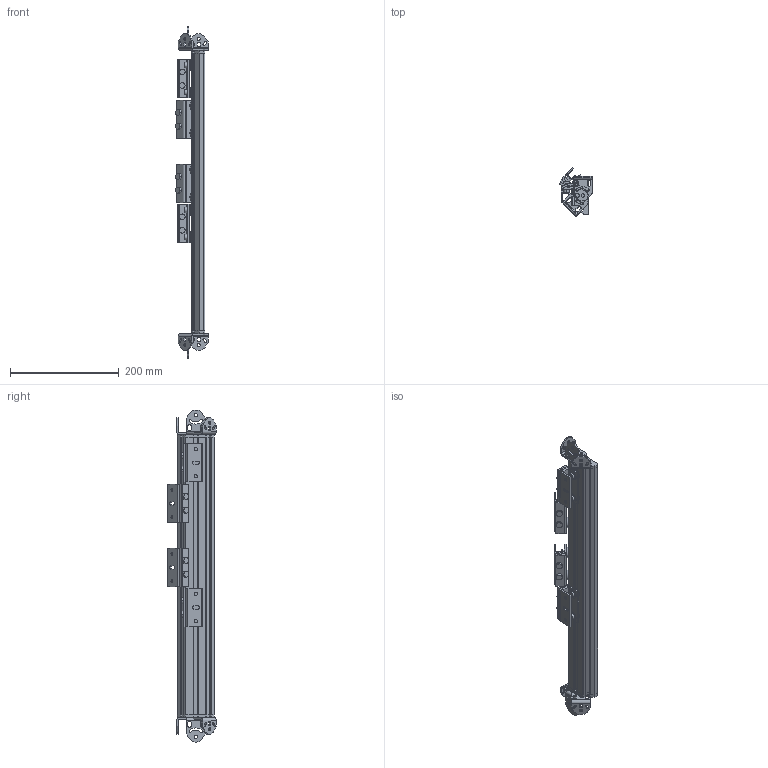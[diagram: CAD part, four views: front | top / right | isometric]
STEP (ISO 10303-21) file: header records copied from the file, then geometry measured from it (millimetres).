
FILE_DESCRIPTION((''),'2;1');
FILE_NAME('UM60-450.stp','2007-11-13T15:08:34',(''),(''),'Mechanical Desktop 2008','Mechanical Desktop 2008',', , ');
FILE_SCHEMA(('CONFIG_CONTROL_DESIGN'));
Length unit declared in the file: millimetre
Products named in the file (11): UM60-XXX; SCHWENKWINKEL; 347901-3D-; 347902-3D-; 347903-3D-; M6-GEWINDEBUCHSE; MESSING-BUCHSE; UM60-WINKEL; PROFIL-N; DECKEL_N; ~DECKEL_N
Assembly tree (20 placements, depth 3):
  UM60-XXX
    SCHWENKWINKEL  x4
      347901-3D-
      347902-3D-
      347903-3D-
      M6-GEWINDEBUCHSE
      MESSING-BUCHSE
    UM60-WINKEL  x6
    PROFIL-N
    DECKEL_N
    ~DECKEL_N
Bounding box: 59.88 x 89.1 x 610 mm (x, y, z)
Volume: 730177.4 mm3; surface area: 251432 mm2
Topology: 37 solids, 37 shells, 780 faces, 2104 edges, 1424 vertices
Faces by surface type: cylinder 398, plane 382
Entity records: 9139 total; most frequent: CARTESIAN_POINT 1776, DIRECTION 1514, ORIENTED_EDGE 1468, EDGE_CURVE 734, VECTOR 510, LINE 510, AXIS2_PLACEMENT_3D 502, VERTEX_POINT 492
